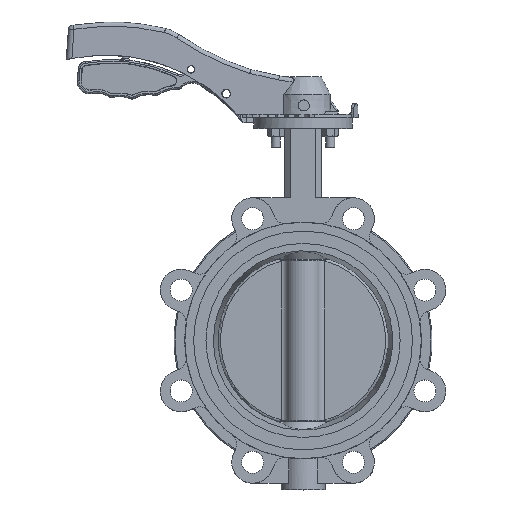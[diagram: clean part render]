
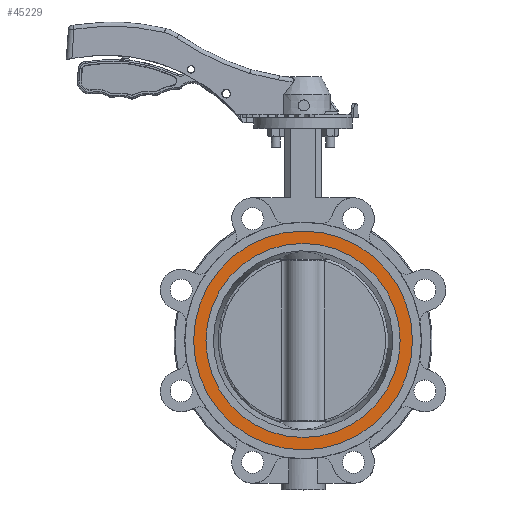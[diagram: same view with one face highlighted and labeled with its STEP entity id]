
A CAD part, top view. The second image highlights one B-rep face of the part: STEP entity #45229.
In plain terms, the highlighted planar face has unit normal (0, 0, 1).
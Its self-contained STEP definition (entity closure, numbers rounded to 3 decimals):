
#1236 = ORIENTED_EDGE ( 'NONE', *, *, #26186, .T. ) ;
#5957 = DIRECTION ( 'NONE',  ( 1., 0., 0. ) ) ;
#7539 = VERTEX_POINT ( 'NONE', #65392 ) ;
#12246 = AXIS2_PLACEMENT_3D ( 'NONE', #52834, #42579, #5957 ) ;
#15521 = CARTESIAN_POINT ( 'NONE',  ( 3.475, -27.257, 30. ) ) ;
#18436 = CARTESIAN_POINT ( 'NONE',  ( -84.875, -27.257, 30. ) ) ;
#19225 = DIRECTION ( 'NONE',  ( 0., 0., -1. ) ) ;
#23259 = VERTEX_POINT ( 'NONE', #18436 ) ;
#24750 = CARTESIAN_POINT ( 'NONE',  ( 3.475, -27.257, 30. ) ) ;
#24814 = DIRECTION ( 'NONE',  ( 0., 0., -1. ) ) ;
#25209 = EDGE_CURVE ( 'NONE', #7539, #7539, #57651, .T. ) ;
#26186 = EDGE_CURVE ( 'NONE', #23259, #23259, #55422, .T. ) ;
#31615 = PLANE ( 'NONE',  #12246 ) ;
#32829 = EDGE_LOOP ( 'NONE', ( #1236 ) ) ;
#40142 = DIRECTION ( 'NONE',  ( -1., 0., 0. ) ) ;
#42579 = DIRECTION ( 'NONE',  ( 0., 0., 1. ) ) ;
#45229 = ADVANCED_FACE ( 'NONE', ( #47370, #62424 ), #31615, .T. ) ;
#45635 = AXIS2_PLACEMENT_3D ( 'NONE', #15521, #24814, #56288 ) ;
#47370 = FACE_BOUND ( 'NONE', #32829, .T. ) ;
#47809 = ORIENTED_EDGE ( 'NONE', *, *, #25209, .F. ) ;
#51075 = AXIS2_PLACEMENT_3D ( 'NONE', #24750, #19225, #40142 ) ;
#52834 = CARTESIAN_POINT ( 'NONE',  ( -84.875, -27.257, 30. ) ) ;
#55422 = CIRCLE ( 'NONE', #51075, 88.35 ) ;
#56288 = DIRECTION ( 'NONE',  ( -1., 0., 0. ) ) ;
#57651 = CIRCLE ( 'NONE', #45635, 99.6 ) ;
#62424 = FACE_OUTER_BOUND ( 'NONE', #67448, .T. ) ;
#65392 = CARTESIAN_POINT ( 'NONE',  ( -96.125, -27.257, 30. ) ) ;
#67448 = EDGE_LOOP ( 'NONE', ( #47809 ) ) ;
